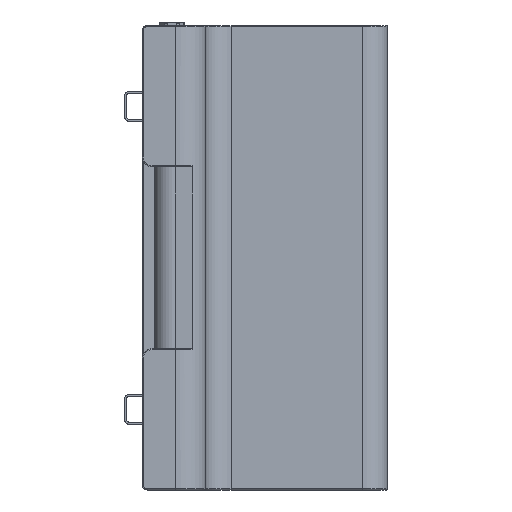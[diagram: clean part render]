
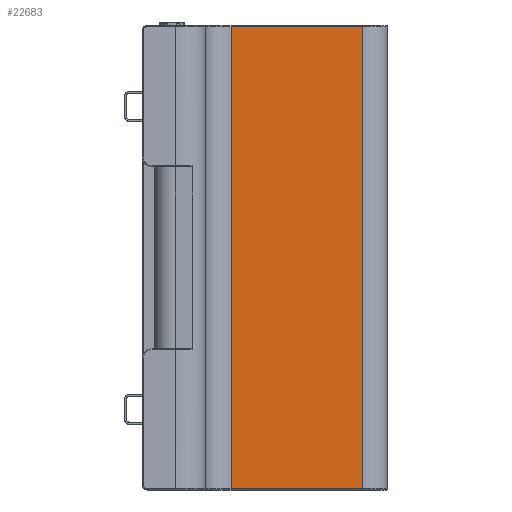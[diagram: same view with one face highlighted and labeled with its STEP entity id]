
A CAD part, front view. The second image highlights one B-rep face of the part: STEP entity #22683.
In plain terms, the highlighted planar face has unit normal (0, -1, 0).
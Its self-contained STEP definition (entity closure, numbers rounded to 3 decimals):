
#947 = EDGE_LOOP ( 'NONE', ( #8175, #17140, #24551, #11908 ) ) ;
#1129 = VECTOR ( 'NONE', #1707, 1000. ) ;
#1706 = CARTESIAN_POINT ( 'NONE',  ( 230., 1027.393, 155. ) ) ;
#1707 = DIRECTION ( 'NONE',  ( -1., 0., 0. ) ) ;
#1722 = DIRECTION ( 'NONE',  ( 0., -1., 0. ) ) ;
#1909 = DIRECTION ( 'NONE',  ( 0., 0., 1. ) ) ;
#2205 = CARTESIAN_POINT ( 'NONE',  ( 230., 1027.393, 25. ) ) ;
#2387 = VECTOR ( 'NONE', #3707, 1000. ) ;
#3079 = CARTESIAN_POINT ( 'NONE',  ( 229., 1027.393, 25. ) ) ;
#3498 = AXIS2_PLACEMENT_3D ( 'NONE', #2205, #1722, #13210 ) ;
#3707 = DIRECTION ( 'NONE',  ( -1., 0., 0. ) ) ;
#3909 = CARTESIAN_POINT ( 'NONE',  ( -229., 1027.393, 25. ) ) ;
#5161 = EDGE_CURVE ( 'NONE', #9448, #10994, #15542, .T. ) ;
#5474 = CARTESIAN_POINT ( 'NONE',  ( 230., 1027.393, 25. ) ) ;
#7224 = CARTESIAN_POINT ( 'NONE',  ( -229., 1027.393, 155. ) ) ;
#7420 = DIRECTION ( 'NONE',  ( 0., 0., -1. ) ) ;
#7875 = PLANE ( 'NONE',  #3498 ) ;
#8175 = ORIENTED_EDGE ( 'NONE', *, *, #16126, .F. ) ;
#9448 = VERTEX_POINT ( 'NONE', #3079 ) ;
#10994 = VERTEX_POINT ( 'NONE', #12720 ) ;
#11482 = CARTESIAN_POINT ( 'NONE',  ( 229., 1027.393, 155. ) ) ;
#11908 = ORIENTED_EDGE ( 'NONE', *, *, #13664, .T. ) ;
#12720 = CARTESIAN_POINT ( 'NONE',  ( 229., 1027.393, 155. ) ) ;
#13210 = DIRECTION ( 'NONE',  ( 0., 0., -1. ) ) ;
#13664 = EDGE_CURVE ( 'NONE', #14332, #22139, #21201, .T. ) ;
#14332 = VERTEX_POINT ( 'NONE', #7224 ) ;
#15085 = LINE ( 'NONE', #5474, #1129 ) ;
#15542 = LINE ( 'NONE', #11482, #19647 ) ;
#16126 = EDGE_CURVE ( 'NONE', #9448, #22139, #15085, .T. ) ;
#17140 = ORIENTED_EDGE ( 'NONE', *, *, #5161, .T. ) ;
#17407 = CARTESIAN_POINT ( 'NONE',  ( -229., 1027.393, 25. ) ) ;
#19509 = FACE_OUTER_BOUND ( 'NONE', #947, .T. ) ;
#19647 = VECTOR ( 'NONE', #1909, 1000. ) ;
#19909 = EDGE_CURVE ( 'NONE', #10994, #14332, #22811, .T. ) ;
#21201 = LINE ( 'NONE', #17407, #22835 ) ;
#22139 = VERTEX_POINT ( 'NONE', #3909 ) ;
#22683 = ADVANCED_FACE ( 'NONE', ( #19509 ), #7875, .T. ) ;
#22811 = LINE ( 'NONE', #1706, #2387 ) ;
#22835 = VECTOR ( 'NONE', #7420, 1000. ) ;
#24551 = ORIENTED_EDGE ( 'NONE', *, *, #19909, .T. ) ;
